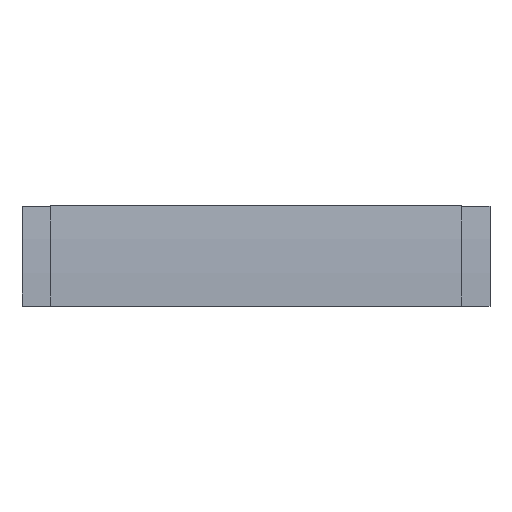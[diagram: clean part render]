
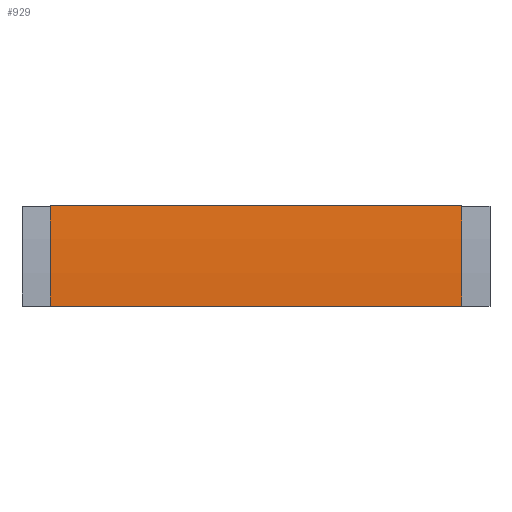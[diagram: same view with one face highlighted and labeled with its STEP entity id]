
A CAD part, front view. The second image highlights one B-rep face of the part: STEP entity #929.
In plain terms, the highlighted cylindrical face has radius 568 mm (diameter 1136 mm), a partial arc.
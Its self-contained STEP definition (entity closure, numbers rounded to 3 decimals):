
#7 = CARTESIAN_POINT ( 'NONE',  ( 0., 500., 0. ) ) ;
#41 = DIRECTION ( 'NONE',  ( 1., 0., 0. ) ) ;
#60 = DIRECTION ( 'NONE',  ( 0., 0., -1. ) ) ;
#61 = DIRECTION ( 'NONE',  ( 1., 0., 0. ) ) ;
#62 = CARTESIAN_POINT ( 'NONE',  ( -152., 500., 0. ) ) ;
#77 = CARTESIAN_POINT ( 'NONE',  ( -152., -68., 0. ) ) ;
#83 = CARTESIAN_POINT ( 'NONE',  ( -152., -63.141, 74.139 ) ) ;
#94 = DIRECTION ( 'NONE',  ( 0., 0., -1. ) ) ;
#105 = CARTESIAN_POINT ( 'NONE',  ( 152., -68., 0. ) ) ;
#114 = CARTESIAN_POINT ( 'NONE',  ( 152., -63.141, 74.139 ) ) ;
#249 = VECTOR ( 'NONE', #803, 1000. ) ;
#251 = VECTOR ( 'NONE', #801, 1000. ) ;
#252 = LINE ( 'NONE', #802, #251 ) ;
#253 = CIRCLE ( 'NONE', #688, 568. ) ;
#272 = LINE ( 'NONE', #810, #249 ) ;
#276 = CYLINDRICAL_SURFACE ( 'NONE', #717, 568. ) ;
#281 = FACE_OUTER_BOUND ( 'NONE', #554, .T. ) ;
#304 = CIRCLE ( 'NONE', #647, 568. ) ;
#335 = ORIENTED_EDGE ( 'NONE', *, *, #975, .F. ) ;
#336 = ORIENTED_EDGE ( 'NONE', *, *, #973, .F. ) ;
#337 = ORIENTED_EDGE ( 'NONE', *, *, #652, .T. ) ;
#338 = ORIENTED_EDGE ( 'NONE', *, *, #972, .T. ) ;
#509 = VERTEX_POINT ( 'NONE', #114 ) ;
#518 = VERTEX_POINT ( 'NONE', #105 ) ;
#539 = VERTEX_POINT ( 'NONE', #83 ) ;
#544 = VERTEX_POINT ( 'NONE', #77 ) ;
#554 = EDGE_LOOP ( 'NONE', ( #335, #336, #337, #338 ) ) ;
#647 = AXIS2_PLACEMENT_3D ( 'NONE', #62, #61, #60 ) ;
#652 = EDGE_CURVE ( 'NONE', #539, #544, #304, .T. ) ;
#688 = AXIS2_PLACEMENT_3D ( 'NONE', #796, #794, #793 ) ;
#717 = AXIS2_PLACEMENT_3D ( 'NONE', #7, #41, #94 ) ;
#793 = DIRECTION ( 'NONE',  ( 0., 0., -1. ) ) ;
#794 = DIRECTION ( 'NONE',  ( 1., 0., 0. ) ) ;
#796 = CARTESIAN_POINT ( 'NONE',  ( 152., 500., 0. ) ) ;
#801 = DIRECTION ( 'NONE',  ( 1., 0., 0. ) ) ;
#802 = CARTESIAN_POINT ( 'NONE',  ( -152., -63.141, 74.139 ) ) ;
#803 = DIRECTION ( 'NONE',  ( 1., 0., 0. ) ) ;
#810 = CARTESIAN_POINT ( 'NONE',  ( -152., -68., 0. ) ) ;
#929 = ADVANCED_FACE ( 'NONE', ( #281 ), #276, .T. ) ;
#972 = EDGE_CURVE ( 'NONE', #544, #518, #272, .T. ) ;
#973 = EDGE_CURVE ( 'NONE', #539, #509, #252, .T. ) ;
#975 = EDGE_CURVE ( 'NONE', #509, #518, #253, .T. ) ;
